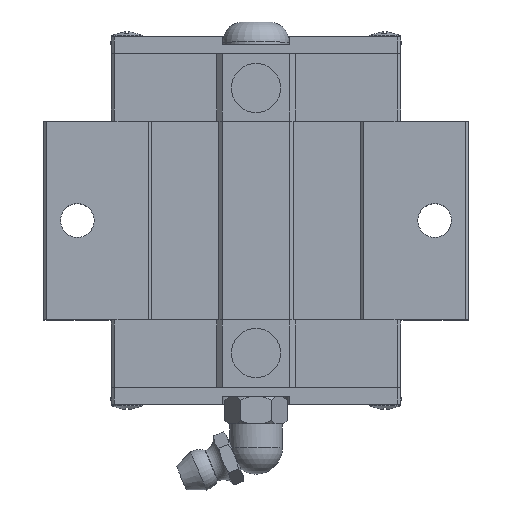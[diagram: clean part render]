
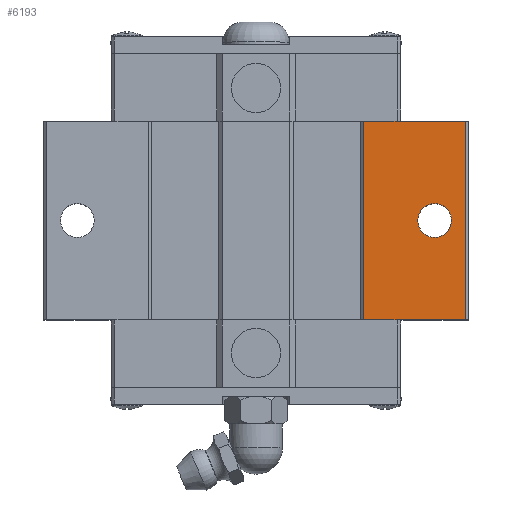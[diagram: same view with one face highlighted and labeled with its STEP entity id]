
A CAD part, top view. The second image highlights one B-rep face of the part: STEP entity #6193.
In plain terms, the highlighted planar face has unit normal (0, 0, 1).
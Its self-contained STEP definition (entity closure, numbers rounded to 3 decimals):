
#2685=VERTEX_POINT('',#7784);
#3019=VERTEX_POINT('',#8148);
#3335=EDGE_CURVE('',#2685,#6937,#8493,.T.);
#3367=VERTEX_POINT('',#8528);
#4255=EDGE_CURVE('',#3019,#3367,#9507,.T.);
#4429=VERTEX_POINT('',#9698);
#5511=EDGE_CURVE('',#7493,#4429,#10887,.T.);
#5939=EDGE_CURVE('',#7493,#6937,#11353,.T.);
#6193=ADVANCED_FACE('',(#11629,#11630),#11631,.T.);
#6547=EDGE_CURVE('',#3367,#3019,#12016,.T.);
#6937=VERTEX_POINT('',#12446);
#7493=VERTEX_POINT('',#13045);
#7501=EDGE_CURVE('',#4429,#2685,#13054,.T.);
#7784=CARTESIAN_POINT('',(16.0,12.55,30.0));
#8148=CARTESIAN_POINT('',(29.0,27.3,30.0));
#8493=LINE('',#14704,#14705);
#8528=CARTESIAN_POINT('',(24.0,27.3,30.0));
#9507=CIRCLE('',#16461,2.5);
#9698=CARTESIAN_POINT('',(16.0,42.05,30.0));
#10887=LINE('',#18853,#18854);
#11353=LINE('',#19675,#19676);
#11629=FACE_OUTER_BOUND('',#20105,.T.);
#11630=FACE_BOUND('',#20106,.T.);
#11631=PLANE('',#20107);
#12016=CIRCLE('',#20771,2.5);
#12446=CARTESIAN_POINT('',(31.04,12.55,30.0));
#13045=CARTESIAN_POINT('',(31.04,42.05,30.0));
#13054=LINE('',#22556,#22557);
#14704=CARTESIAN_POINT('',(31.04,12.55,30.0));
#14705=VECTOR('',#23612,1.0);
#16461=AXIS2_PLACEMENT_3D('',#24702,#24703,#24704);
#18853=CARTESIAN_POINT('',(31.04,42.05,30.0));
#18854=VECTOR('',#26284,1.0);
#19675=CARTESIAN_POINT('',(31.04,42.05,30.0));
#19676=VECTOR('',#26751,1.0);
#20105=EDGE_LOOP('',(#27030,#27031,#27032,#27033));
#20106=EDGE_LOOP('',(#27034,#27035));
#20107=AXIS2_PLACEMENT_3D('',#27036,#27037,#27038);
#20771=AXIS2_PLACEMENT_3D('',#27448,#27449,#27450);
#22556=CARTESIAN_POINT('',(16.0,49.425,30.0));
#22557=VECTOR('',#28462,1.0);
#23612=DIRECTION('',(1.0,0.0,0.0));
#24702=CARTESIAN_POINT('',(26.5,27.3,30.0));
#24703=DIRECTION('',(0.0,0.0,-1.0));
#24704=DIRECTION('',(1.0,0.0,0.0));
#26284=DIRECTION('',(-1.0,0.0,0.0));
#26751=DIRECTION('',(0.0,-1.0,0.0));
#27030=ORIENTED_EDGE('',*,*,#7501,.T.);
#27031=ORIENTED_EDGE('',*,*,#3335,.T.);
#27032=ORIENTED_EDGE('',*,*,#5939,.F.);
#27033=ORIENTED_EDGE('',*,*,#5511,.T.);
#27034=ORIENTED_EDGE('',*,*,#4255,.T.);
#27035=ORIENTED_EDGE('',*,*,#6547,.T.);
#27036=CARTESIAN_POINT('',(-31.04,42.05,30.0));
#27037=DIRECTION('',(0.0,0.0,1.0));
#27038=DIRECTION('',(-1.0,0.0,0.0));
#27448=CARTESIAN_POINT('',(26.5,27.3,30.0));
#27449=DIRECTION('',(0.0,0.0,-1.0));
#27450=DIRECTION('',(1.0,0.0,0.0));
#28462=DIRECTION('',(0.0,-1.0,0.0));
